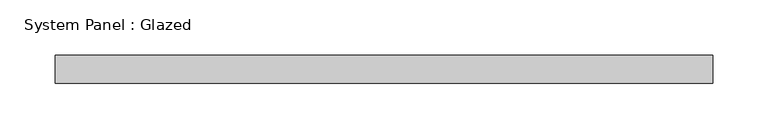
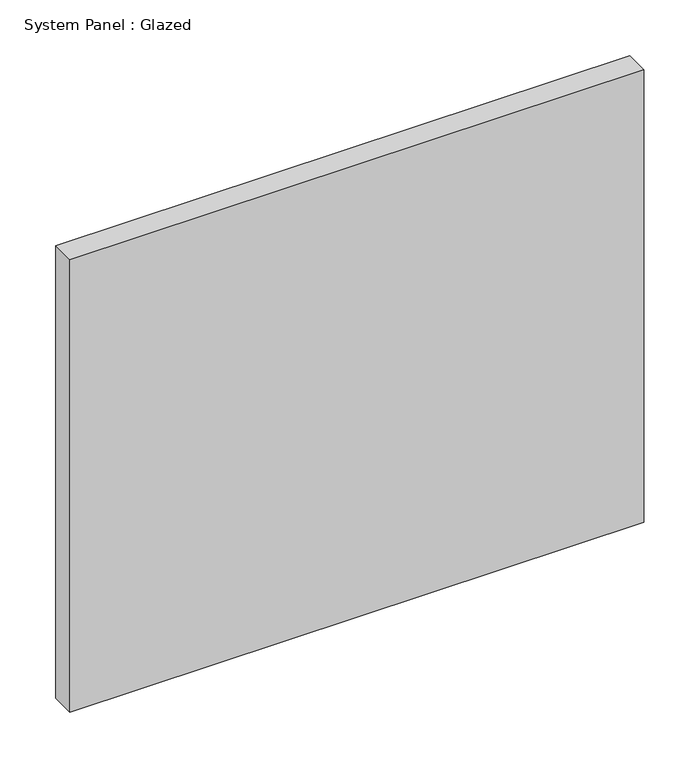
"""IFC4 building model written with IfcOpenShell, lengths in millimetres: plate geometry, System Panel : Glazed."""

from ifc_helpers import new_model, si_unit, origin, origin_with_axes, place, context, project, spatial, polyline, outline, extrude, source, transform, mapped, element, save


def system_panel_glazed_a8cc2c5f(model_context):
    return source(origin(), model_context, "Body", "SweptSolid", [
        extrude(outline(polyline([(297.18, -12.7), (-297.18, -12.7), (-297.18, 12.7), (297.18, 12.7), (297.18, -12.7)])), origin_with_axes(), (0.0, 0.0, 1.0), 495.3),
    ])


if __name__ == "__main__":
    model = new_model("IFC4")
    model_context = context("Model", 3, world=origin())
    ifc_project = project(units=[si_unit("LENGTHUNIT", "METRE", prefix="MILLI")], contexts=[model_context])
    site = spatial("IfcSite", under=ifc_project)
    building = spatial("IfcBuilding", under=site)
    placement = place(None, origin())
    system_panel_glazed_shape = system_panel_glazed_a8cc2c5f(model_context)
    element("IfcPlate", 1, ObjectType="System Panel : Glazed", at=placement, inside=building, context=model_context, shape_type="MappedRepresentation", body=[
        mapped(system_panel_glazed_shape, transform((0.0, 0.0, 0.0), x_axis=(1.0, 0.0, 0.0), y_axis=(0.0, 1.0, 0.0), z_axis=(0.0, 0.0, 1.0))),
    ])
    save(model, "model.ifc")
